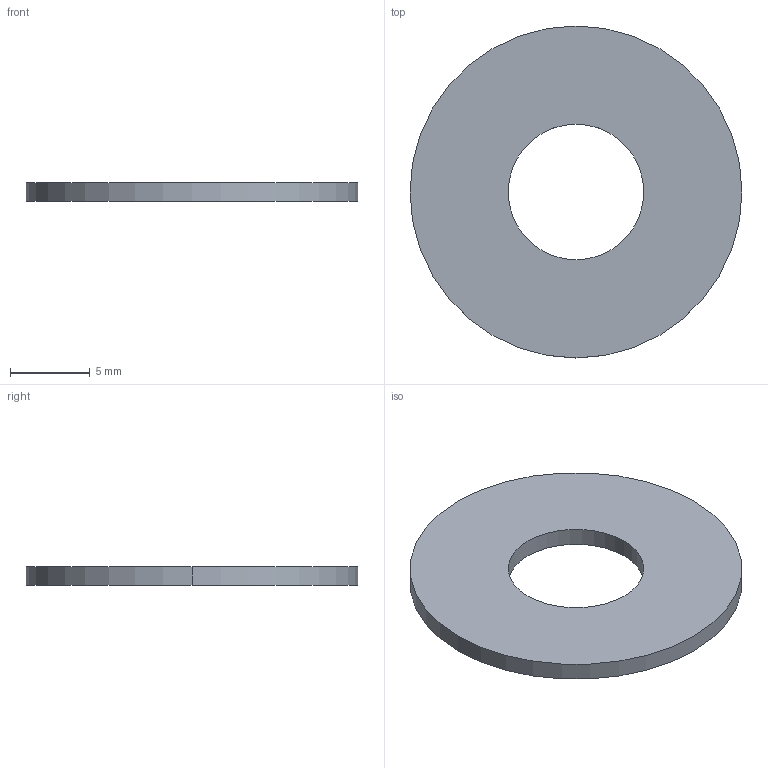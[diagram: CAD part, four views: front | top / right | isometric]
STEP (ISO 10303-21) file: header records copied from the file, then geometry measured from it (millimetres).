
FILE_DESCRIPTION (( 'STEP AP203' ), '1' );
FILE_NAME ('LED-10W-6R-HT-102 Step.STEP', '2013-10-24T16:27:42', ( 'Rob' ), ( '' ), 'SwSTEP 2.0', 'SolidWorks 2013', '' );
FILE_SCHEMA (( 'CONFIG_CONTROL_DESIGN' ));
Length unit declared in the file: inch
Products named in the file (1): LED-10W-6R-HT-102 Step
Bounding box: 20.83 x 20.83 x 1.14 mm (x, y, z)
Volume: 324.4 mm3; surface area: 673 mm2
Topology: 1 solids, 1 shells, 6 faces, 12 edges, 8 vertices
Faces by surface type: cylinder 4, plane 2
Entity records: 247 total; most frequent: DIRECTION 34, CARTESIAN_POINT 27, ORIENTED_EDGE 24, AXIS2_PLACEMENT_3D 15, EDGE_CURVE 12, VERTEX_POINT 8, CIRCLE 8, EDGE_LOOP 8
